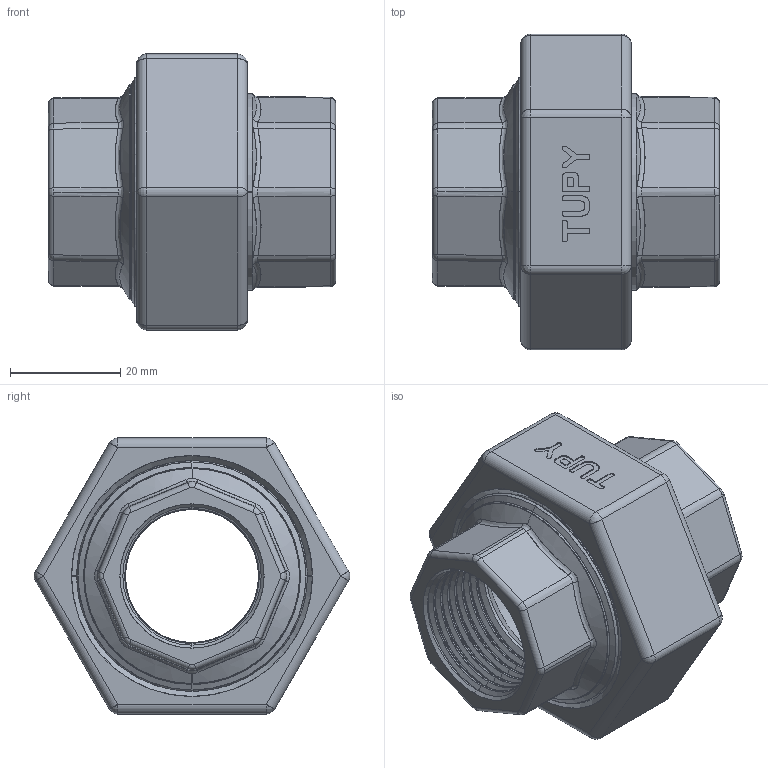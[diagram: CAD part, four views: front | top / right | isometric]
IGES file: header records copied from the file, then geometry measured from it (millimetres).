
Start section: SolidWorks IGES file using analytic representation for surfaces
Global section: file name: C:\Users\Joel Rosa\Desktop\Tubulação\12-63-X\12-63-006.IGS; native system: SolidWorks 2011; preprocessor: SolidWorks 2011; author: Joel Rosa; date: 130721.145527; units: millimetre
Bounding box: 52 x 57.19 x 50 mm (x, y, z)
Surface area: 24899.8 mm2 (no closed solid volume)
Topology: 0 solids, 0 shells, 541 faces, 4278 edges, 4270 vertices
Faces by surface type: bspline 336, revolution 205
